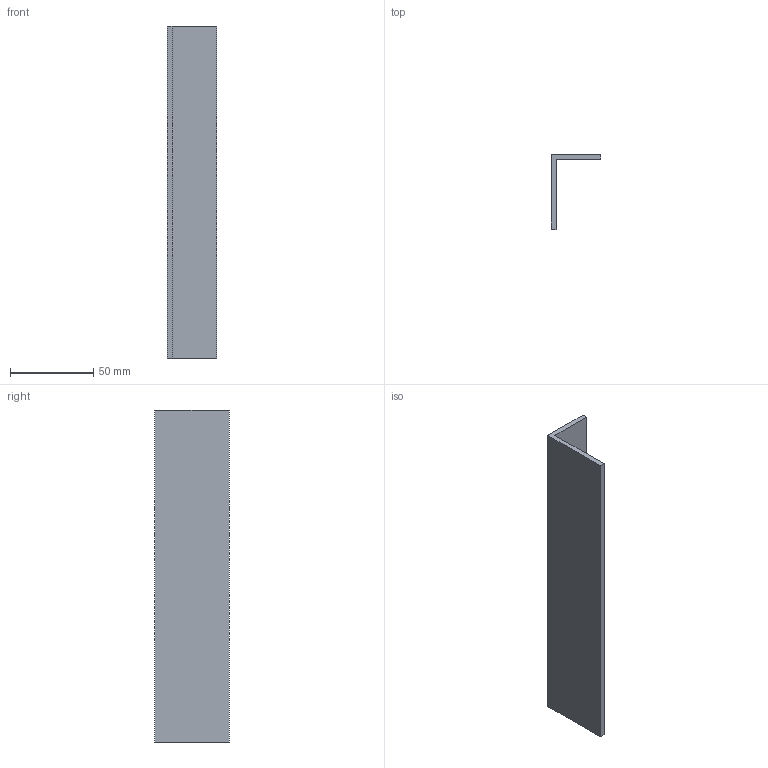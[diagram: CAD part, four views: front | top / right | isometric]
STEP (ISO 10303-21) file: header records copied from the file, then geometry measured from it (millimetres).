
FILE_DESCRIPTION((''),'2;1');
FILE_NAME('C:\Vault Klient\Projekt\Step\300-3020.stp','2009-12-04T13:19:00',('Mathias'),(''),'Autodesk Inventor 2010','Autodesk Inventor 2010','');
FILE_SCHEMA(('CONFIG_CONTROL_DESIGN'));
Length unit declared in the file: millimetre
Products named in the file (1): 300-3020-01
Bounding box: 30 x 45 x 200 mm (x, y, z)
Volume: 43200 mm3; surface area: 30432 mm2
Topology: 1 solids, 1 shells, 8 faces, 18 edges, 12 vertices
Faces by surface type: plane 8
Entity records: 248 total; most frequent: CARTESIAN_POINT 39, DIRECTION 36, ORIENTED_EDGE 36, VECTOR 18, LINE 18, EDGE_CURVE 18, VERTEX_POINT 12, AXIS2_PLACEMENT_3D 9
